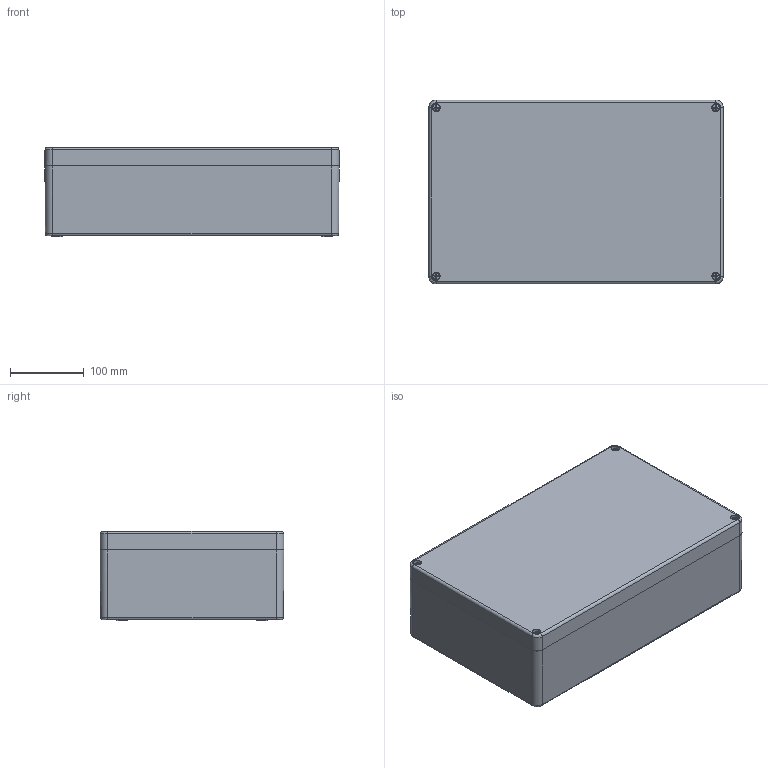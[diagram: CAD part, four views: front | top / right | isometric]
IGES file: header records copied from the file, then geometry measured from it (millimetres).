
Global section: file name: 1590ZGRP243.iam; native system: Autodesk Inventor 2016; preprocessor: unknown; author: kbond; date: 20160202.082042; units: millimetre
Bounding box: 400 x 250 x 121.25 mm (x, y, z)
Volume: 2358925.3 mm3; surface area: 905444.9 mm2
Topology: 8 solids, 8 shells, 455 faces, 1216 edges, 818 vertices
Faces by surface type: plane 253, revolution 126, cylinder 32, cone 28, bspline 8, sphere 8
Full cylindrical faces by diameter (mm): 4 x8, 5.28 x4, 5.88 x4
